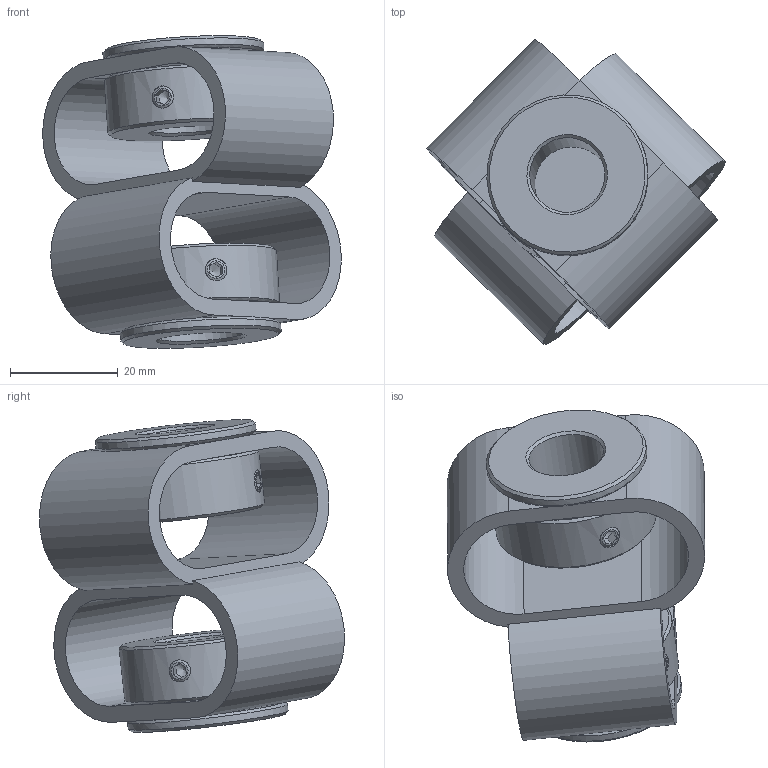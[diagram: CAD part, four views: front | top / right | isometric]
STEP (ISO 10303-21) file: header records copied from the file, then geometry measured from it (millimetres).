
FILE_DESCRIPTION(/* description */ (''),/* implementation_level */ '2;1');
FILE_NAME(/* name */ 'E:\ABP_bauteile\Doppelschlaufenkupplung\DKPS_5658\Doppelschlaufenkupplung_DKPS_5658_14_16.stp',/* time_stamp */ '2015-03-13T11:40:57+01:00',/* author */ ('Rob'),/* organization */ (''),/* preprocessor_version */ 'ST-DEVELOPER v15.6',/* originating_system */ 'Autodesk Inventor 2015',/* authorisation */ '');
FILE_SCHEMA (('CONFIG_CONTROL_DESIGN'));
Length unit declared in the file: millimetre
Products named in the file (1): Bauteil50
Bounding box: 55.53 x 56.74 x 58.16 mm (x, y, z)
Volume: 30912.6 mm3; surface area: 18107.1 mm2
Topology: 1 solids, 1 shells, 142 faces, 360 edges, 218 vertices
Faces by surface type: plane 84, cone 30, cylinder 28
Full cylindrical faces by diameter (mm): 4.134 x8, 14 x1, 16 x1, 21.5 x2, 23 x4, 30 x4
Entity records: 4088 total; most frequent: CARTESIAN_POINT 1027, DIRECTION 646, ORIENTED_EDGE 556, EDGE_CURVE 278, AXIS2_PLACEMENT_3D 257, EDGE_LOOP 210, VERTEX_POINT 182, FACE_OUTER_BOUND 142
